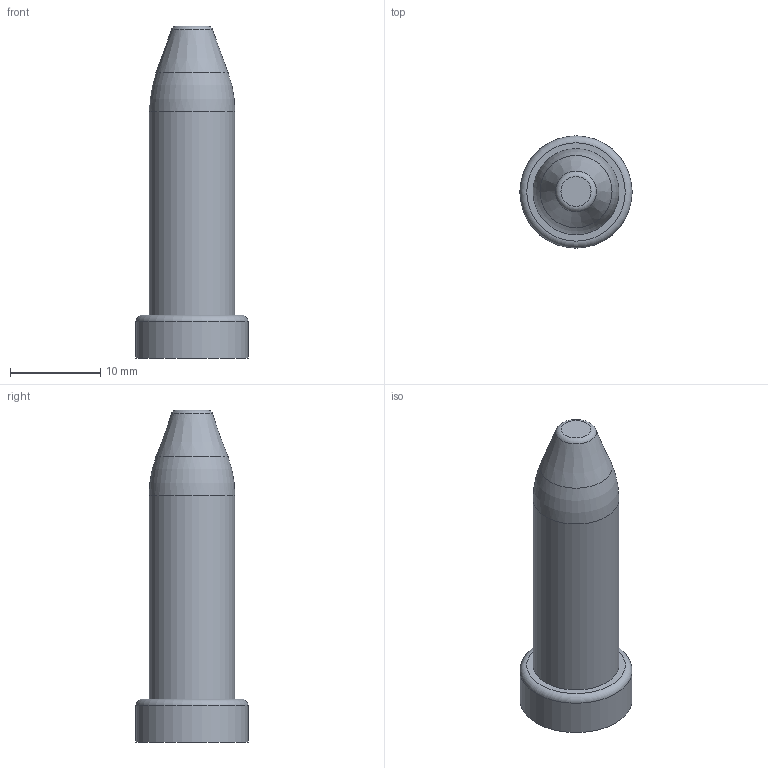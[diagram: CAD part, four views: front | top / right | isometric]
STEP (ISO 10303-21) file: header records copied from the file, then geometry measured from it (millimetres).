
FILE_DESCRIPTION (( 'STEP AP214' ), '1' );
FILE_NAME ('P-.375-.075-1.000.STEP', '2023-11-06T20:56:57', ( '' ), ( '' ), 'SwSTEP 2.0', 'SolidWorks 2020', '' );
FILE_SCHEMA (( 'AUTOMOTIVE_DESIGN' ));
Length unit declared in the file: inch
Products named in the file (1): P-.375-.075-1.000
Bounding box: 12.45 x 12.45 x 36.83 mm (x, y, z)
Volume: 2615.4 mm3; surface area: 1263.5 mm2
Topology: 1 solids, 1 shells, 9 faces, 14 edges, 8 vertices
Faces by surface type: plane 3, torus 3, cylinder 2, cone 1
Full cylindrical faces by diameter (mm): 9.525 x1, 12.446 x1
Entity records: 214 total; most frequent: DIRECTION 36, CARTESIAN_POINT 26, AXIS2_PLACEMENT_3D 18, EDGE_LOOP 16, ORIENTED_EDGE 16, FACE_OUTER_BOUND 14, ADVANCED_FACE 9, EDGE_CURVE 8
